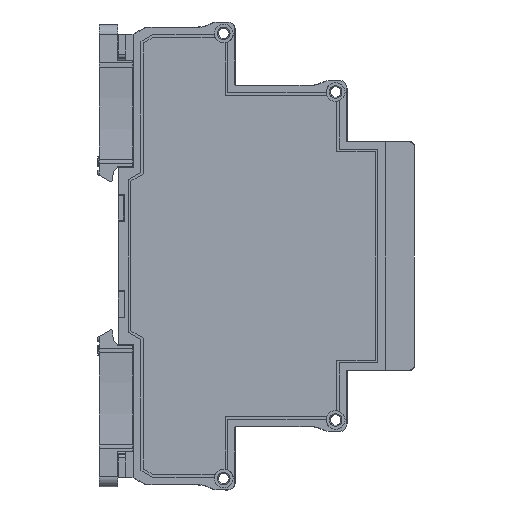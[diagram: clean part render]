
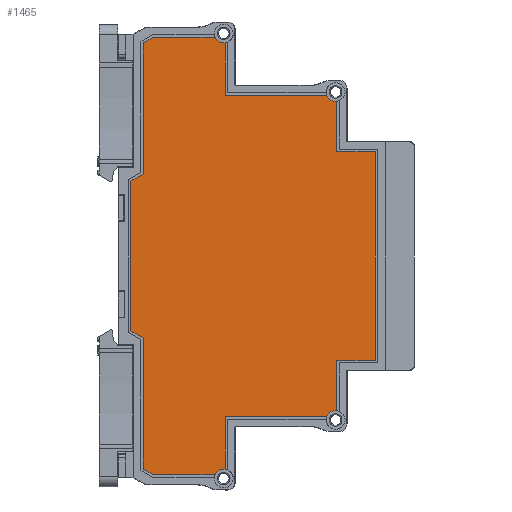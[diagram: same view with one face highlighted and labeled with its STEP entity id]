
A CAD part, front view. The second image highlights one B-rep face of the part: STEP entity #1465.
In plain terms, the highlighted planar face has unit normal (0, -1, 0) as drawn and (1, 0, 0) by its records, which use the part's own axes.
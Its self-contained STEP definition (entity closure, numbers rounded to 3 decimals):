
#1465=ADVANCED_FACE('',(#30554),#30556,.T.);
#30554=FACE_BOUND('',#30555,.T.);
#30555=EDGE_LOOP('',(#54891,#54892,#54893,#54894,#54895,#54896,#54897,#54898,#54899,
#54900,#54901,#54902,#54903,#54904,#54905,#54906,#54907,#54908,#54909,#54910,#54911,
#54912));
#30556=PLANE('',#30557);
#30557=AXIS2_PLACEMENT_3D('',#30558,#30559,#30560);
#30558=CARTESIAN_POINT('',(6.5,0.,0.));
#30559=DIRECTION('',(1.,0.,0.));
#30560=DIRECTION('',(0.,0.,-1.));
#54891=ORIENTED_EDGE('',*,*,#73203,.F.);
#54892=ORIENTED_EDGE('',*,*,#73204,.T.);
#54893=ORIENTED_EDGE('',*,*,#73121,.F.);
#54894=ORIENTED_EDGE('',*,*,#73205,.T.);
#54895=ORIENTED_EDGE('',*,*,#73206,.T.);
#54896=ORIENTED_EDGE('',*,*,#73207,.T.);
#54897=ORIENTED_EDGE('',*,*,#73208,.T.);
#54898=ORIENTED_EDGE('',*,*,#73209,.T.);
#54899=ORIENTED_EDGE('',*,*,#73105,.F.);
#54900=ORIENTED_EDGE('',*,*,#73210,.F.);
#54901=ORIENTED_EDGE('',*,*,#73211,.T.);
#54902=ORIENTED_EDGE('',*,*,#73115,.F.);
#54903=ORIENTED_EDGE('',*,*,#73212,.T.);
#54904=ORIENTED_EDGE('',*,*,#73213,.F.);
#54905=ORIENTED_EDGE('',*,*,#73214,.T.);
#54906=ORIENTED_EDGE('',*,*,#73215,.T.);
#54907=ORIENTED_EDGE('',*,*,#73216,.T.);
#54908=ORIENTED_EDGE('',*,*,#73217,.T.);
#54909=ORIENTED_EDGE('',*,*,#73218,.T.);
#54910=ORIENTED_EDGE('',*,*,#73219,.F.);
#54911=ORIENTED_EDGE('',*,*,#73220,.T.);
#54912=ORIENTED_EDGE('',*,*,#73131,.F.);
#73105=EDGE_CURVE('',#82257,#82242,#82259,.T.);
#73115=EDGE_CURVE('',#82277,#82262,#82279,.T.);
#73121=EDGE_CURVE('',#82289,#82291,#82292,.T.);
#73131=EDGE_CURVE('',#82309,#82311,#82312,.T.);
#73203=EDGE_CURVE('',#82450,#82309,#82451,.T.);
#73204=EDGE_CURVE('',#82450,#82291,#82452,.T.);
#73205=EDGE_CURVE('',#82289,#82453,#82454,.T.);
#73206=EDGE_CURVE('',#82453,#82455,#82456,.T.);
#73207=EDGE_CURVE('',#82455,#82457,#82458,.T.);
#73208=EDGE_CURVE('',#82457,#82459,#82460,.T.);
#73209=EDGE_CURVE('',#82459,#82242,#82461,.T.);
#73210=EDGE_CURVE('',#82462,#82257,#82463,.T.);
#73211=EDGE_CURVE('',#82462,#82262,#82464,.T.);
#73212=EDGE_CURVE('',#82277,#82465,#82466,.T.);
#73213=EDGE_CURVE('',#82467,#82465,#82468,.T.);
#73214=EDGE_CURVE('',#82467,#82469,#82470,.T.);
#73215=EDGE_CURVE('',#82469,#82471,#82472,.T.);
#73216=EDGE_CURVE('',#82471,#82473,#82474,.T.);
#73217=EDGE_CURVE('',#82473,#82475,#82476,.T.);
#73218=EDGE_CURVE('',#82475,#82477,#82478,.T.);
#73219=EDGE_CURVE('',#82479,#82477,#82480,.T.);
#73220=EDGE_CURVE('',#82479,#82311,#82481,.T.);
#82242=VERTEX_POINT('',#98028);
#82257=VERTEX_POINT('',#98061);
#82259=CIRCLE('',#98065,1.85);
#82262=VERTEX_POINT('',#98074);
#82277=VERTEX_POINT('',#98107);
#82279=CIRCLE('',#98111,1.85);
#82289=VERTEX_POINT('',#98135);
#82291=VERTEX_POINT('',#98139);
#82292=CIRCLE('',#98140,1.85);
#82309=VERTEX_POINT('',#98181);
#82311=VERTEX_POINT('',#98185);
#82312=CIRCLE('',#98186,1.85);
#82450=VERTEX_POINT('',#98490);
#82451=LINE('',#98491,#98492);
#82452=LINE('',#98494,#98495);
#82453=VERTEX_POINT('',#98497);
#82454=LINE('',#98498,#98499);
#82455=VERTEX_POINT('',#98501);
#82456=LINE('',#98502,#98503);
#82457=VERTEX_POINT('',#98505);
#82458=LINE('',#98506,#98507);
#82459=VERTEX_POINT('',#98509);
#82460=LINE('',#98510,#98511);
#82461=LINE('',#98513,#98514);
#82462=VERTEX_POINT('',#98516);
#82463=LINE('',#98517,#98518);
#82464=LINE('',#98520,#98521);
#82465=VERTEX_POINT('',#98523);
#82466=LINE('',#98524,#98525);
#82467=VERTEX_POINT('',#98527);
#82468=LINE('',#98528,#98529);
#82469=VERTEX_POINT('',#98531);
#82470=LINE('',#98532,#98533);
#82471=VERTEX_POINT('',#98535);
#82472=LINE('',#98536,#98537);
#82473=VERTEX_POINT('',#98539);
#82474=LINE('',#98540,#98541);
#82475=VERTEX_POINT('',#98543);
#82476=LINE('',#98544,#98545);
#82477=VERTEX_POINT('',#98547);
#82478=LINE('',#98548,#98549);
#82479=VERTEX_POINT('',#98551);
#82480=LINE('',#98552,#98553);
#82481=LINE('',#98555,#98556);
#98028=CARTESIAN_POINT('',(6.5,-30.541,38.985));
#98061=CARTESIAN_POINT('',(6.5,-31.7,37.015));
#98065=AXIS2_PLACEMENT_3D('',#98066,#98067,#98068);
#98066=CARTESIAN_POINT('',(6.5,-32.375,38.738));
#98067=DIRECTION('',(1.,0.,0.));
#98068=DIRECTION('',(0.,0.365,-0.931));
#98074=CARTESIAN_POINT('',(6.5,-42.103,16.897));
#98107=CARTESIAN_POINT('',(6.5,-43.2,14.953));
#98111=AXIS2_PLACEMENT_3D('',#98112,#98113,#98114);
#98112=CARTESIAN_POINT('',(6.5,-43.937,16.65));
#98113=DIRECTION('',(1.,0.,0.));
#98114=DIRECTION('',(0.,0.398,-0.917));
#98135=CARTESIAN_POINT('',(6.5,30.541,38.985));
#98139=CARTESIAN_POINT('',(6.5,31.7,37.015));
#98140=AXIS2_PLACEMENT_3D('',#98141,#98142,#98143);
#98141=CARTESIAN_POINT('',(6.5,32.375,38.738));
#98142=DIRECTION('',(1.,0.,0.));
#98143=DIRECTION('',(0.,-0.991,0.134));
#98181=CARTESIAN_POINT('',(6.5,42.103,16.897));
#98185=CARTESIAN_POINT('',(6.5,43.2,14.953));
#98186=AXIS2_PLACEMENT_3D('',#98187,#98188,#98189);
#98187=CARTESIAN_POINT('',(6.5,43.937,16.65));
#98188=DIRECTION('',(1.,0.,0.));
#98189=DIRECTION('',(0.,-0.991,0.134));
#98490=CARTESIAN_POINT('',(6.5,31.7,16.897));
#98491=CARTESIAN_POINT('',(6.5,31.7,16.897));
#98492=VECTOR('',#98493,1.);
#98493=DIRECTION('',(0.,1.,0.));
#98494=CARTESIAN_POINT('',(6.5,31.7,16.897));
#98495=VECTOR('',#98496,1.);
#98496=DIRECTION('',(0.,0.,1.));
#98497=CARTESIAN_POINT('',(6.5,20.6,38.985));
#98498=CARTESIAN_POINT('',(6.5,30.541,38.985));
#98499=VECTOR('',#98500,1.);
#98500=DIRECTION('',(0.,-1.,0.));
#98501=CARTESIAN_POINT('',(6.5,20.6,46.53));
#98502=CARTESIAN_POINT('',(6.5,20.6,38.985));
#98503=VECTOR('',#98504,1.);
#98504=DIRECTION('',(0.,0.,1.));
#98505=CARTESIAN_POINT('',(6.5,-20.6,46.53));
#98506=CARTESIAN_POINT('',(6.5,20.6,46.53));
#98507=VECTOR('',#98508,1.);
#98508=DIRECTION('',(0.,-1.,0.));
#98509=CARTESIAN_POINT('',(6.5,-20.6,38.985));
#98510=CARTESIAN_POINT('',(6.5,-20.6,46.53));
#98511=VECTOR('',#98512,1.);
#98512=DIRECTION('',(0.,0.,-1.));
#98513=CARTESIAN_POINT('',(6.5,-20.6,38.985));
#98514=VECTOR('',#98515,1.);
#98515=DIRECTION('',(0.,-1.,0.));
#98516=CARTESIAN_POINT('',(6.5,-31.7,16.897));
#98517=CARTESIAN_POINT('',(6.5,-31.7,16.897));
#98518=VECTOR('',#98519,1.);
#98519=DIRECTION('',(0.,0.,1.));
#98520=CARTESIAN_POINT('',(6.5,-31.7,16.897));
#98521=VECTOR('',#98522,1.);
#98522=DIRECTION('',(0.,-1.,0.));
#98523=CARTESIAN_POINT('',(6.5,-43.2,2.761));
#98524=CARTESIAN_POINT('',(6.5,-43.2,14.953));
#98525=VECTOR('',#98526,1.);
#98526=DIRECTION('',(0.,0.,-1.));
#98527=CARTESIAN_POINT('',(6.5,-42.068,0.8));
#98528=CARTESIAN_POINT('',(6.5,-42.068,0.8));
#98529=VECTOR('',#98530,1.);
#98530=DIRECTION('',(0.,-0.5,0.866));
#98531=CARTESIAN_POINT('',(6.5,-16.211,0.8));
#98532=CARTESIAN_POINT('',(6.5,-42.068,0.8));
#98533=VECTOR('',#98534,1.);
#98534=DIRECTION('',(0.,1.,0.));
#98535=CARTESIAN_POINT('',(6.5,-14.768,-1.7));
#98536=CARTESIAN_POINT('',(6.5,-16.211,0.8));
#98537=VECTOR('',#98538,1.);
#98538=DIRECTION('',(0.,0.5,-0.866));
#98539=CARTESIAN_POINT('',(6.5,14.768,-1.7));
#98540=CARTESIAN_POINT('',(6.5,-14.768,-1.7));
#98541=VECTOR('',#98542,1.);
#98542=DIRECTION('',(0.,1.,0.));
#98543=CARTESIAN_POINT('',(6.5,16.211,0.8));
#98544=CARTESIAN_POINT('',(6.5,14.768,-1.7));
#98545=VECTOR('',#98546,1.);
#98546=DIRECTION('',(0.,0.5,0.866));
#98547=CARTESIAN_POINT('',(6.5,42.068,0.8));
#98548=CARTESIAN_POINT('',(6.5,16.211,0.8));
#98549=VECTOR('',#98550,1.);
#98550=DIRECTION('',(0.,1.,0.));
#98551=CARTESIAN_POINT('',(6.5,43.2,2.761));
#98552=CARTESIAN_POINT('',(6.5,43.2,2.761));
#98553=VECTOR('',#98554,1.);
#98554=DIRECTION('',(0.,-0.5,-0.866));
#98555=CARTESIAN_POINT('',(6.5,43.2,2.761));
#98556=VECTOR('',#98557,1.);
#98557=DIRECTION('',(0.,0.,1.));
